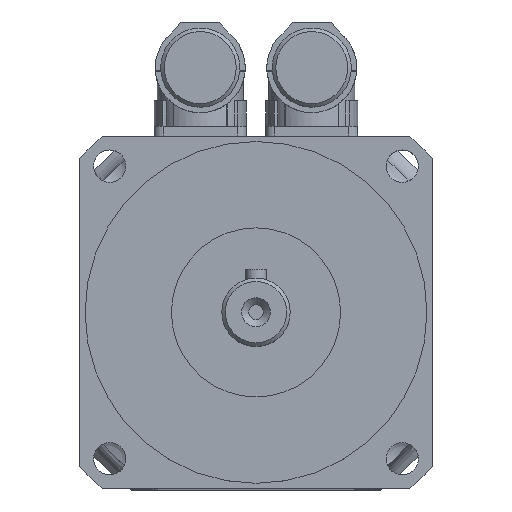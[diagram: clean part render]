
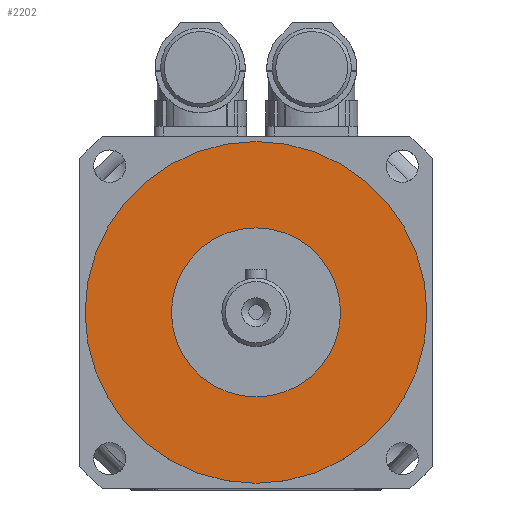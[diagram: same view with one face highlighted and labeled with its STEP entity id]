
A CAD part, top view. The second image highlights one B-rep face of the part: STEP entity #2202.
In plain terms, the highlighted planar face has unit normal (0, 0, 1).
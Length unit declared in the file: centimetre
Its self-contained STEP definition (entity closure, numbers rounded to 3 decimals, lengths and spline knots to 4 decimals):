
#167=PLANE('',#2372);
#237=CIRCLE('',#2367,4.75);
#239=CIRCLE('',#2370,2.35);
#659=VERTEX_POINT('',#4159);
#661=VERTEX_POINT('',#4164);
#952=EDGE_CURVE('',#659,#659,#237,.T.);
#954=EDGE_CURVE('',#661,#661,#239,.T.);
#1357=ORIENTED_EDGE('',*,*,#954,.F.);
#1358=ORIENTED_EDGE('',*,*,#952,.F.);
#1858=EDGE_LOOP('',(#1357));
#1859=EDGE_LOOP('',(#1358));
#2038=FACE_BOUND('',#1858,.T.);
#2039=FACE_BOUND('',#1859,.T.);
#2202=ADVANCED_FACE('',(#2038,#2039),#167,.T.);
#2367=AXIS2_PLACEMENT_3D('',#4158,#2762,#2763);
#2370=AXIS2_PLACEMENT_3D('',#4163,#2768,#2769);
#2372=AXIS2_PLACEMENT_3D('',#4167,#2772,$);
#2762=DIRECTION('',(0.,0.,-1.));
#2763=DIRECTION('',(4.75,0.,0.));
#2768=DIRECTION('',(0.,0.,1.));
#2769=DIRECTION('',(2.35,0.,0.));
#2772=DIRECTION('',(0.,0.,1.));
#4158=CARTESIAN_POINT('',(0.,0.,1.6));
#4159=CARTESIAN_POINT('',(4.75,0.,1.6));
#4163=CARTESIAN_POINT('',(0.,0.,1.6));
#4164=CARTESIAN_POINT('',(2.35,0.,1.6));
#4167=CARTESIAN_POINT('',(0.,0.,1.6));
